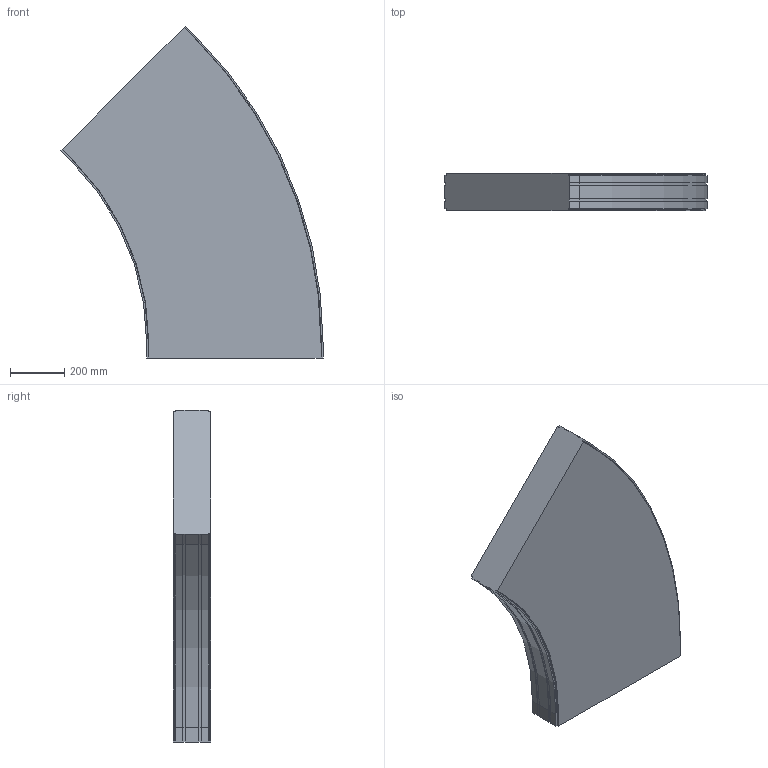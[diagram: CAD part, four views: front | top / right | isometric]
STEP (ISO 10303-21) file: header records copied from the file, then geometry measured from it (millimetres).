
FILE_DESCRIPTION (( 'STEP AP214' ), '1' );
FILE_NAME ('FS-MTC2-150-INOX horizontaalbocht.650 45°.STEP', '2017-02-08T12:40:45', ( '' ), ( '' ), 'SwSTEP 2.0', 'SolidWorks 2016', '' );
FILE_SCHEMA (( 'AUTOMOTIVE_DESIGN' ));
Length unit declared in the file: millimetre
Products named in the file (1): FS-MTC2-150-INOX horizontaalbocht.650 45°
Bounding box: 967.26 x 136.5 x 1224.71 mm (x, y, z)
Volume: 98253799 mm3; surface area: 1946818.1 mm2
Topology: 1 solids, 1 shells, 74 faces, 216 edges, 144 vertices
Faces by surface type: plane 56, cylinder 18
Entity records: 2470 total; most frequent: CARTESIAN_POINT 435, ORIENTED_EDGE 432, DIRECTION 402, EDGE_CURVE 216, VECTOR 180, LINE 180, VERTEX_POINT 144, AXIS2_PLACEMENT_3D 111
